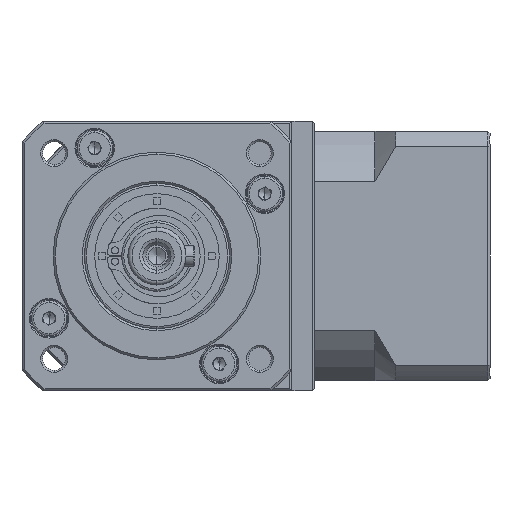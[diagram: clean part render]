
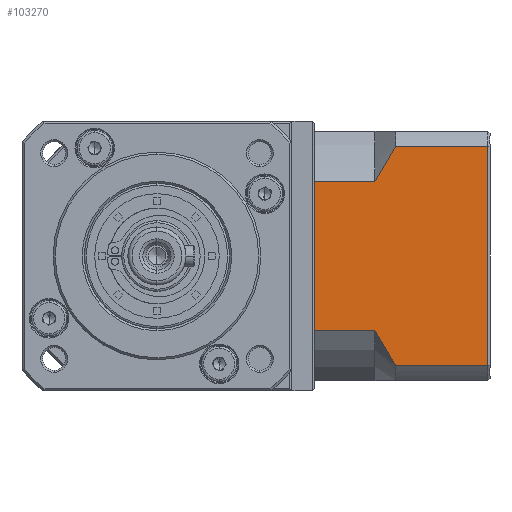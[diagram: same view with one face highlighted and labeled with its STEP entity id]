
A CAD part, left-side view. The second image highlights one B-rep face of the part: STEP entity #103270.
In plain terms, the highlighted planar face has unit normal (-1, 0, 0).
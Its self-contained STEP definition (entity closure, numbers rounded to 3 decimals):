
#948 = LINE ( 'NONE', #113486, #68503 ) ;
#3490 = CARTESIAN_POINT ( 'NONE',  ( -19.598, -76.535, -99.922 ) ) ;
#4637 = FACE_OUTER_BOUND ( 'NONE', #28552, .T. ) ;
#6368 = EDGE_CURVE ( 'NONE', #53814, #66052, #13774, .T. ) ;
#8590 = CARTESIAN_POINT ( 'NONE',  ( -19.598, -75.787, -137.429 ) ) ;
#10684 = CARTESIAN_POINT ( 'NONE',  ( -19.598, -80.787, -145.859 ) ) ;
#13534 = ORIENTED_EDGE ( 'NONE', *, *, #31971, .F. ) ;
#13774 = LINE ( 'NONE', #37607, #81346 ) ;
#18281 = VERTEX_POINT ( 'NONE', #10684 ) ;
#18341 = CARTESIAN_POINT ( 'NONE',  ( -19.598, -75.787, -137.429 ) ) ;
#20265 = DIRECTION ( 'NONE',  ( 0., -1., 0. ) ) ;
#22417 = VERTEX_POINT ( 'NONE', #142140 ) ;
#22806 = CARTESIAN_POINT ( 'NONE',  ( -19.598, -61.287, -137.429 ) ) ;
#24934 = LINE ( 'NONE', #142543, #155784 ) ;
#25052 = LINE ( 'NONE', #58052, #118387 ) ;
#26596 = EDGE_CURVE ( 'NONE', #34218, #22417, #161266, .T. ) ;
#28552 = EDGE_LOOP ( 'NONE', ( #13534, #148452, #104950, #128858, #85199, #142757, #113135, #103197 ) ) ;
#31971 = EDGE_CURVE ( 'NONE', #53814, #18281, #104754, .T. ) ;
#34218 = VERTEX_POINT ( 'NONE', #86678 ) ;
#37251 = DIRECTION ( 'NONE',  ( 0., 0., 1. ) ) ;
#37389 = DIRECTION ( 'NONE',  ( 0., 1., 0. ) ) ;
#37607 = CARTESIAN_POINT ( 'NONE',  ( -19.598, -102.987, -149.401 ) ) ;
#41296 = CARTESIAN_POINT ( 'NONE',  ( -19.598, -79.888, -94.304 ) ) ;
#41447 = EDGE_CURVE ( 'NONE', #111822, #18281, #135227, .T. ) ;
#41655 = DIRECTION ( 'NONE',  ( 0., 0., -1. ) ) ;
#42334 = VECTOR ( 'NONE', #116339, 1000. ) ;
#43913 = CARTESIAN_POINT ( 'NONE',  ( -19.598, -77.338, -140.311 ) ) ;
#46820 = EDGE_CURVE ( 'NONE', #97711, #58269, #24934, .T. ) ;
#50317 = CARTESIAN_POINT ( 'NONE',  ( -19.598, -61.287, -101.374 ) ) ;
#53814 = VERTEX_POINT ( 'NONE', #80813 ) ;
#56654 = CARTESIAN_POINT ( 'NONE',  ( -19.598, -79.886, -144.496 ) ) ;
#58052 = CARTESIAN_POINT ( 'NONE',  ( -19.598, -75.787, -92.944 ) ) ;
#58269 = VERTEX_POINT ( 'NONE', #22806 ) ;
#62145 = DIRECTION ( 'NONE',  ( 0., 1., 0. ) ) ;
#65891 = AXIS2_PLACEMENT_3D ( 'NONE', #149796, #73878, #162427 ) ;
#66052 = VERTEX_POINT ( 'NONE', #102402 ) ;
#68503 = VECTOR ( 'NONE', #37389, 1000. ) ;
#73878 = DIRECTION ( 'NONE',  ( 1., 0., 0. ) ) ;
#79586 = CARTESIAN_POINT ( 'NONE',  ( -19.598, -77.339, -98.49 ) ) ;
#80813 = CARTESIAN_POINT ( 'NONE',  ( -19.598, -102.987, -145.859 ) ) ;
#80848 = EDGE_CURVE ( 'NONE', #97711, #22417, #113872, .T. ) ;
#81346 = VECTOR ( 'NONE', #37251, 1000. ) ;
#85199 = ORIENTED_EDGE ( 'NONE', *, *, #80848, .F. ) ;
#86678 = CARTESIAN_POINT ( 'NONE',  ( -19.598, -80.787, -92.944 ) ) ;
#92264 = CARTESIAN_POINT ( 'NONE',  ( -19.598, -75.787, -101.374 ) ) ;
#94306 = CARTESIAN_POINT ( 'NONE',  ( -19.598, -76.538, -138.886 ) ) ;
#97711 = VERTEX_POINT ( 'NONE', #50317 ) ;
#98884 = PLANE ( 'NONE',  #65891 ) ;
#102402 = CARTESIAN_POINT ( 'NONE',  ( -19.598, -102.987, -92.944 ) ) ;
#103197 = ORIENTED_EDGE ( 'NONE', *, *, #41447, .T. ) ;
#103270 = ADVANCED_FACE ( 'NONE', ( #4637 ), #98884, .F. ) ;
#103524 = CARTESIAN_POINT ( 'NONE',  ( -19.598, -75.787, -101.374 ) ) ;
#104754 = LINE ( 'NONE', #150726, #138456 ) ;
#104950 = ORIENTED_EDGE ( 'NONE', *, *, #111762, .F. ) ;
#111762 = EDGE_CURVE ( 'NONE', #34218, #66052, #25052, .T. ) ;
#111822 = VERTEX_POINT ( 'NONE', #8590 ) ;
#113135 = ORIENTED_EDGE ( 'NONE', *, *, #118024, .F. ) ;
#113486 = CARTESIAN_POINT ( 'NONE',  ( -19.598, -75.787, -137.429 ) ) ;
#113872 = LINE ( 'NONE', #103524, #42334 ) ;
#116339 = DIRECTION ( 'NONE',  ( 0., -1., 0. ) ) ;
#117331 = CARTESIAN_POINT ( 'NONE',  ( -19.598, -80.787, -92.944 ) ) ;
#118024 = EDGE_CURVE ( 'NONE', #111822, #58269, #948, .T. ) ;
#118387 = VECTOR ( 'NONE', #20265, 1000. ) ;
#128858 = ORIENTED_EDGE ( 'NONE', *, *, #26596, .T. ) ;
#132653 = CARTESIAN_POINT ( 'NONE',  ( -19.598, -79.012, -143.116 ) ) ;
#135227 = B_SPLINE_CURVE_WITH_KNOTS ( 'NONE', 3,
 ( #18341, #94306, #43913, #132653, #56654, #145336 ),
 .UNSPECIFIED., .F., .F.,
 ( 4, 2, 4 ),
 ( 0.1, 0.104, 0.109 ),
 .UNSPECIFIED. ) ;
#138456 = VECTOR ( 'NONE', #62145, 1000. ) ;
#142140 = CARTESIAN_POINT ( 'NONE',  ( -19.598, -75.787, -101.374 ) ) ;
#142543 = CARTESIAN_POINT ( 'NONE',  ( -19.598, -61.287, -149.401 ) ) ;
#142757 = ORIENTED_EDGE ( 'NONE', *, *, #46820, .T. ) ;
#145336 = CARTESIAN_POINT ( 'NONE',  ( -19.598, -80.787, -145.859 ) ) ;
#148452 = ORIENTED_EDGE ( 'NONE', *, *, #6368, .T. ) ;
#149796 = CARTESIAN_POINT ( 'NONE',  ( -19.598, -103.487, -149.401 ) ) ;
#150726 = CARTESIAN_POINT ( 'NONE',  ( -19.598, -75.787, -145.859 ) ) ;
#155396 = CARTESIAN_POINT ( 'NONE',  ( -19.598, -79.015, -95.682 ) ) ;
#155784 = VECTOR ( 'NONE', #41655, 1000. ) ;
#161266 = B_SPLINE_CURVE_WITH_KNOTS ( 'NONE', 3,
 ( #117331, #41296, #155396, #79586, #3490, #92264 ),
 .UNSPECIFIED., .F., .F.,
 ( 4, 2, 4 ),
 ( 0.052, 0.057, 0.062 ),
 .UNSPECIFIED. ) ;
#162427 = DIRECTION ( 'NONE',  ( 0., 1., 0. ) ) ;
